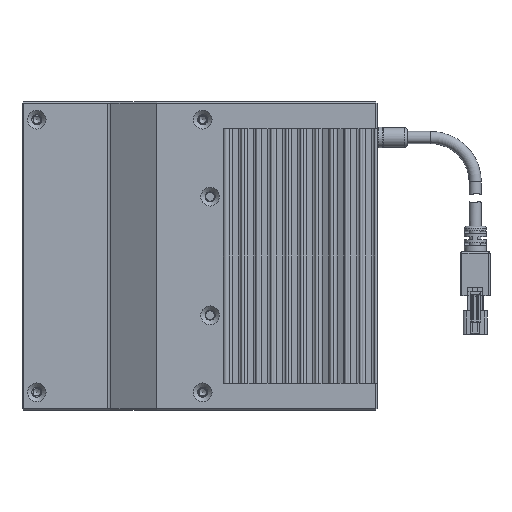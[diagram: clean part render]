
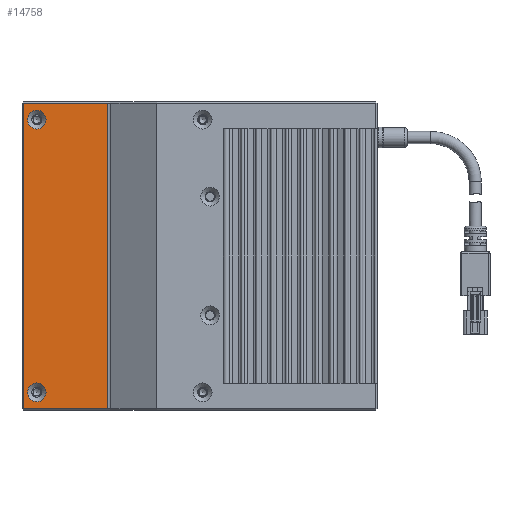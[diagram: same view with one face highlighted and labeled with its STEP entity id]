
A CAD part, left-side view. The second image highlights one B-rep face of the part: STEP entity #14758.
In plain terms, the highlighted planar face has unit normal (-1, 0, 0).
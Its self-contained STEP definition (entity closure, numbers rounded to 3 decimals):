
#1602 = CARTESIAN_POINT ( 'NONE',  ( -15.462, 21.439, 221.5 ) ) ;
#1766 = LINE ( 'NONE', #27073, #6269 ) ;
#2617 = DIRECTION ( 'NONE',  ( 0., 1., 0. ) ) ;
#4071 = ORIENTED_EDGE ( 'NONE', *, *, #27651, .F. ) ;
#5312 = DIRECTION ( 'NONE',  ( 0., 0., -1. ) ) ;
#5533 = CARTESIAN_POINT ( 'NONE',  ( -15.462, -6.987, 221.5 ) ) ;
#6269 = VECTOR ( 'NONE', #19112, 1000. ) ;
#6272 = CARTESIAN_POINT ( 'NONE',  ( -15.462, -6.987, 120. ) ) ;
#7184 = VECTOR ( 'NONE', #5312, 1000. ) ;
#7380 = EDGE_CURVE ( 'NONE', #14988, #14988, #8102, .T. ) ;
#7855 = CARTESIAN_POINT ( 'NONE',  ( -15.462, 16.939, 220.65 ) ) ;
#8102 = CIRCLE ( 'NONE', #20757, 3.15 ) ;
#8515 = CARTESIAN_POINT ( 'NONE',  ( -15.462, 16.939, 128.65 ) ) ;
#8594 = ORIENTED_EDGE ( 'NONE', *, *, #7380, .F. ) ;
#8702 = VERTEX_POINT ( 'NONE', #26175 ) ;
#9232 = CARTESIAN_POINT ( 'NONE',  ( -15.462, 21.439, 120. ) ) ;
#10183 = EDGE_LOOP ( 'NONE', ( #4071, #18901, #31166, #21900 ) ) ;
#10668 = EDGE_CURVE ( 'NONE', #11188, #8702, #1766, .T. ) ;
#10688 = PLANE ( 'NONE',  #12807 ) ;
#11188 = VERTEX_POINT ( 'NONE', #30001 ) ;
#11260 = CARTESIAN_POINT ( 'NONE',  ( -15.462, 16.939, 125.5 ) ) ;
#12319 = DIRECTION ( 'NONE',  ( -1., 0., 0. ) ) ;
#12550 = DIRECTION ( 'NONE',  ( 0., 0., 1. ) ) ;
#12807 = AXIS2_PLACEMENT_3D ( 'NONE', #28610, #23481, #23371 ) ;
#13653 = FACE_BOUND ( 'NONE', #23697, .T. ) ;
#13996 = DIRECTION ( 'NONE',  ( 0., 0., 1. ) ) ;
#14227 = CARTESIAN_POINT ( 'NONE',  ( -15.462, 16.939, 217.5 ) ) ;
#14758 = ADVANCED_FACE ( 'NONE', ( #32853, #13653, #24697 ), #10688, .F. ) ;
#14988 = VERTEX_POINT ( 'NONE', #7855 ) ;
#16083 = VERTEX_POINT ( 'NONE', #9232 ) ;
#16784 = AXIS2_PLACEMENT_3D ( 'NONE', #11260, #29769, #13996 ) ;
#16850 = EDGE_CURVE ( 'NONE', #11188, #27923, #22287, .T. ) ;
#18134 = EDGE_CURVE ( 'NONE', #19081, #19081, #23028, .T. ) ;
#18264 = CARTESIAN_POINT ( 'NONE',  ( -15.462, -7.561, 120. ) ) ;
#18683 = LINE ( 'NONE', #1602, #24802 ) ;
#18901 = ORIENTED_EDGE ( 'NONE', *, *, #21784, .F. ) ;
#19081 = VERTEX_POINT ( 'NONE', #8515 ) ;
#19112 = DIRECTION ( 'NONE',  ( 0., 1., 0. ) ) ;
#20757 = AXIS2_PLACEMENT_3D ( 'NONE', #14227, #12319, #12550 ) ;
#21587 = EDGE_LOOP ( 'NONE', ( #33048 ) ) ;
#21784 = EDGE_CURVE ( 'NONE', #27923, #16083, #25801, .T. ) ;
#21900 = ORIENTED_EDGE ( 'NONE', *, *, #10668, .T. ) ;
#22287 = LINE ( 'NONE', #5533, #7184 ) ;
#23028 = CIRCLE ( 'NONE', #16784, 3.15 ) ;
#23371 = DIRECTION ( 'NONE',  ( 0., 0., -1. ) ) ;
#23481 = DIRECTION ( 'NONE',  ( 1., 0., 0. ) ) ;
#23697 = EDGE_LOOP ( 'NONE', ( #8594 ) ) ;
#24697 = FACE_OUTER_BOUND ( 'NONE', #10183, .T. ) ;
#24802 = VECTOR ( 'NONE', #28081, 1000. ) ;
#24970 = VECTOR ( 'NONE', #2617, 1000. ) ;
#25801 = LINE ( 'NONE', #18264, #24970 ) ;
#26175 = CARTESIAN_POINT ( 'NONE',  ( -15.462, 21.439, 223. ) ) ;
#27073 = CARTESIAN_POINT ( 'NONE',  ( -15.462, -7.561, 223. ) ) ;
#27651 = EDGE_CURVE ( 'NONE', #16083, #8702, #18683, .T. ) ;
#27923 = VERTEX_POINT ( 'NONE', #6272 ) ;
#28081 = DIRECTION ( 'NONE',  ( 0., 0., 1. ) ) ;
#28610 = CARTESIAN_POINT ( 'NONE',  ( -15.462, -7.561, 221.5 ) ) ;
#29769 = DIRECTION ( 'NONE',  ( -1., 0., 0. ) ) ;
#30001 = CARTESIAN_POINT ( 'NONE',  ( -15.462, -6.987, 223. ) ) ;
#31166 = ORIENTED_EDGE ( 'NONE', *, *, #16850, .F. ) ;
#32853 = FACE_BOUND ( 'NONE', #21587, .T. ) ;
#33048 = ORIENTED_EDGE ( 'NONE', *, *, #18134, .F. ) ;
